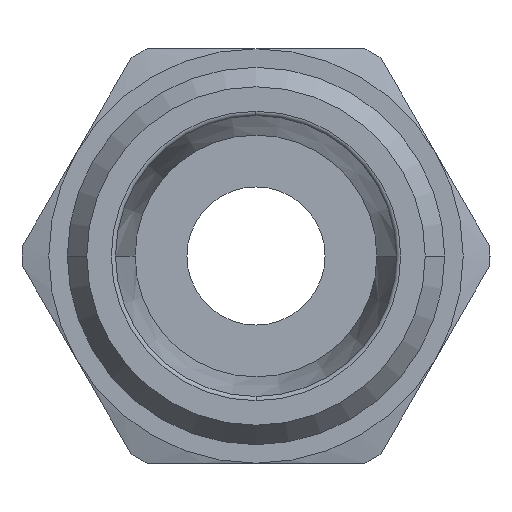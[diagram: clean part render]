
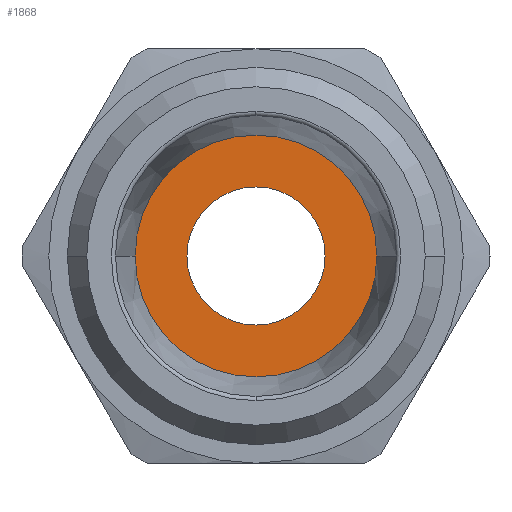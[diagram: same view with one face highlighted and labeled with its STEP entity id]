
A CAD part, left-side view. The second image highlights one B-rep face of the part: STEP entity #1868.
In plain terms, the highlighted planar face has unit normal (-1, 0, 0) as drawn and (0, 0, 1) by its records, which use the part's own axes.
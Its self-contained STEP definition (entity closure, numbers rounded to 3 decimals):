
#767=CARTESIAN_POINT('',(0.,-7.,10.85));
#768=VERTEX_POINT('',#767);
#784=CARTESIAN_POINT('',(0.,7.,10.85));
#785=VERTEX_POINT('',#784);
#792=CARTESIAN_POINT('',(0.,0.,10.85));
#793=DIRECTION('',(0.0,0.0,-1.0));
#794=DIRECTION('',(0.0,-1.0,0.0));
#795=AXIS2_PLACEMENT_3D('',#792,#793,#794);
#796=CIRCLE('',#795,7.0);
#797=EDGE_CURVE('',#785,#768,#796,.T.);
#1256=CARTESIAN_POINT('',(0.,4.,10.85));
#1257=VERTEX_POINT('',#1256);
#1266=CARTESIAN_POINT('',(0.,-4.,10.85));
#1267=VERTEX_POINT('',#1266);
#1268=CARTESIAN_POINT('',(0.,0.,10.85));
#1269=DIRECTION('',(0.0,0.0,-1.0));
#1270=DIRECTION('',(0.0,1.0,0.0));
#1271=AXIS2_PLACEMENT_3D('',#1268,#1269,#1270);
#1272=CIRCLE('',#1271,4.0);
#1273=EDGE_CURVE('',#1267,#1257,#1272,.T.);
#1555=CARTESIAN_POINT('',(0.,0.,10.85));
#1556=DIRECTION('',(0.0,0.0,-1.0));
#1557=DIRECTION('',(0.0,1.0,0.0));
#1558=AXIS2_PLACEMENT_3D('',#1555,#1556,#1557);
#1559=CIRCLE('',#1558,4.0);
#1560=EDGE_CURVE('',#1257,#1267,#1559,.T.);
#1849=CARTESIAN_POINT('',(0.,-3.5,10.85));
#1850=DIRECTION('',(0.0,0.0,1.0));
#1851=DIRECTION('',(-1.0,0.0,0.0));
#1852=AXIS2_PLACEMENT_3D('',#1849,#1850,#1851);
#1853=PLANE('',#1852);
#1854=CARTESIAN_POINT('',(0.,0.,10.85));
#1855=DIRECTION('',(0.0,0.0,-1.0));
#1856=DIRECTION('',(0.0,-1.0,0.0));
#1857=AXIS2_PLACEMENT_3D('',#1854,#1855,#1856);
#1858=CIRCLE('',#1857,7.0);
#1859=EDGE_CURVE('',#768,#785,#1858,.T.);
#1860=ORIENTED_EDGE('',*,*,#1859,.F.);
#1861=ORIENTED_EDGE('',*,*,#797,.F.);
#1862=EDGE_LOOP('',(#1860,#1861));
#1863=FACE_OUTER_BOUND('',#1862,.T.);
#1864=ORIENTED_EDGE('',*,*,#1273,.T.);
#1865=ORIENTED_EDGE('',*,*,#1560,.T.);
#1866=EDGE_LOOP('',(#1864,#1865));
#1867=FACE_BOUND('',#1866,.T.);
#1868=ADVANCED_FACE('',(#1863,#1867),#1853,.T.);
